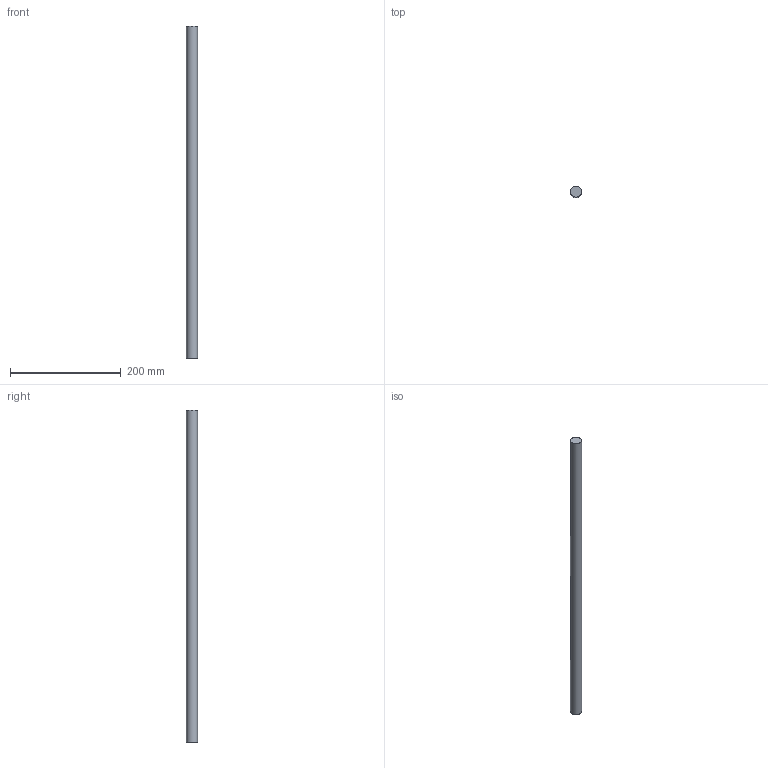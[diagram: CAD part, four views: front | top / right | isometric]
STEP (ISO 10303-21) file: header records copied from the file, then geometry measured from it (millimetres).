
FILE_DESCRIPTION(/* description */ (''),/* implementation_level */ '2;1');
FILE_NAME(/* name */ 'C:\Users\David\Desktop\stepFiles\Profilfuehrung\WF20x600.stp',/* time_stamp */ '2018-06-24T15:49:03+02:00',/* author */ ('David'),/* organization */ (''),/* preprocessor_version */ 'ST-DEVELOPER v17',/* originating_system */ 'Autodesk Inventor 2019',/* authorisation */ '');
FILE_SCHEMA (('AUTOMOTIVE_DESIGN { 1 0 10303 214 3 1 1 }'));
Length unit declared in the file: millimetre
Products named in the file (1): Wellenfuehrung
Bounding box: 20 x 20 x 600 mm (x, y, z)
Volume: 188495.6 mm3; surface area: 38327.4 mm2
Topology: 1 solids, 1 shells, 3 faces, 3 edges, 2 vertices
Faces by surface type: plane 2, cylinder 1
Full cylindrical faces by diameter (mm): 20 x1
Entity records: 98 total; most frequent: DIRECTION 13, CARTESIAN_POINT 9, ORIENTED_EDGE 6, AXIS2_PLACEMENT_3D 6, FACE_OUTER_BOUND 3, EDGE_LOOP 3, EDGE_CURVE 3, ADVANCED_FACE 3
